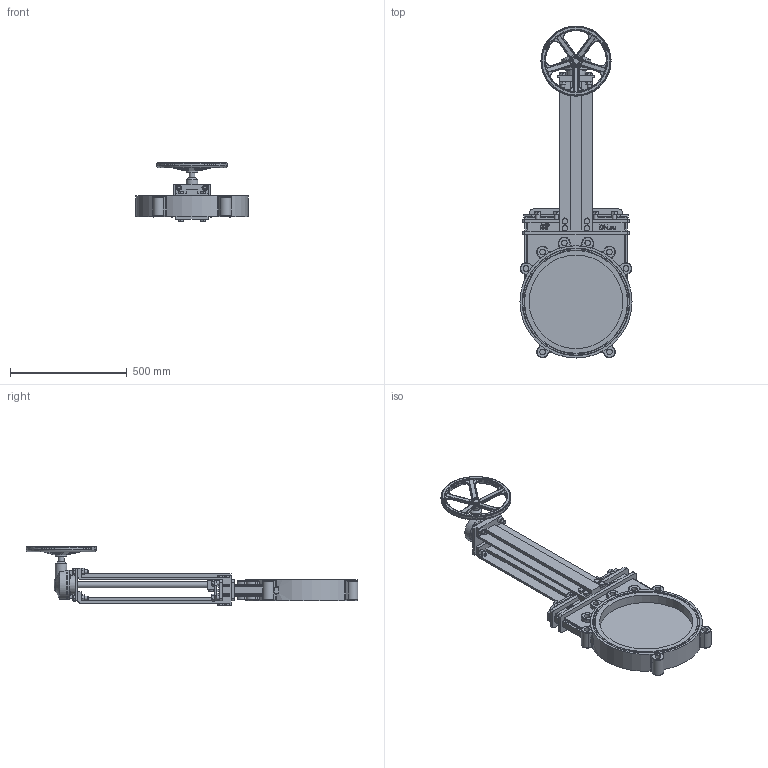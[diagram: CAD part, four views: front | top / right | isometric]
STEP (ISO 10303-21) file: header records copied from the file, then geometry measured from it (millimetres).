
FILE_DESCRIPTION(('STEP AP242'), '1');
FILE_NAME('GVKN1331N-2W-Fb-R Çàäâèæêà øèáåðíàÿ DN.ru Äó400 Ðó10', '2026-05-25T19:56:10', ('DN.ru'), (''), 'C3D Converter', 'C3D Toolkit', '');
FILE_SCHEMA(('AP242_MANAGED_MODEL_BASED_3D_ENGINEERING_MIM_LF { 1 0 10303 442 1 1 4 }'));
Length unit declared in the file: millimetre
Products named in the file (1): GVKN1331N-2W-Fb-R
Bounding box: 480 x 1420.5 x 253.83 mm (x, y, z)
Volume: 16385137.3 mm3; surface area: 1723658.9 mm2
Topology: 1 solids, 1 shells, 1982 faces, 5005 edges, 3114 vertices
Faces by surface type: plane 867, cylinder 394, torus 258, bspline 209, extrusion 137, sphere 59, cone 58
Full cylindrical faces by diameter (mm): 10 x4, 16 x8, 18 x8, 24 x16, 25 x3, 35 x1, 50 x2, 125 x2, 260 x1, 268 x1, 292 x1, 300 x1, 400 x2, 440 x2, 460 x2, 480 x1
Entity records: 116962 total; most frequent: CARTESIAN_POINT 55575, ORIENTED_EDGE 9792, DIRECTION 8623, EDGE_CURVE 4896, VERTEX_POINT 3114, AXIS2_PLACEMENT_3D 3083, VECTOR 2457, LINE 2320
